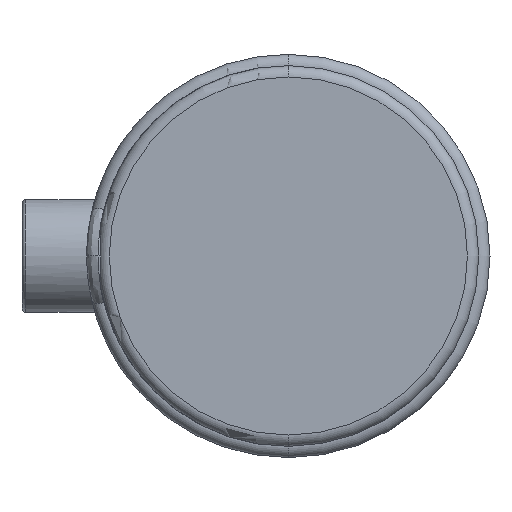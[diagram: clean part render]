
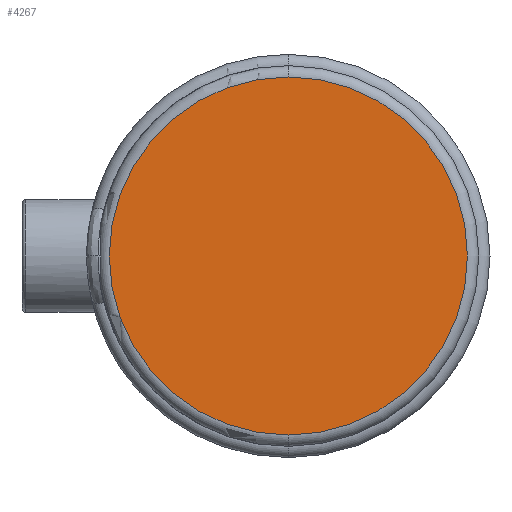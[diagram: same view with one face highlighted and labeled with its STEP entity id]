
A CAD part, left-side view. The second image highlights one B-rep face of the part: STEP entity #4267.
In plain terms, the highlighted planar face has unit normal (-1, 0, 0).
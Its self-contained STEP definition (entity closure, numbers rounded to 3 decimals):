
#45 = PLANE ( 'NONE',  #5277 ) ;
#291 = AXIS2_PLACEMENT_3D ( 'NONE', #5041, #2251, #5509 ) ;
#506 = DIRECTION ( 'NONE',  ( 0., 0., 1. ) ) ;
#597 = CIRCLE ( 'NONE', #2716, 47.6 ) ;
#692 = VERTEX_POINT ( 'NONE', #3502 ) ;
#790 = DIRECTION ( 'NONE',  ( -1., 0., 0. ) ) ;
#1278 = ORIENTED_EDGE ( 'NONE', *, *, #3951, .T. ) ;
#1596 = EDGE_LOOP ( 'NONE', ( #3744, #1278 ) ) ;
#1791 = CARTESIAN_POINT ( 'NONE',  ( 0., 0., -47.6 ) ) ;
#1891 = CARTESIAN_POINT ( 'NONE',  ( 0., 0., 0. ) ) ;
#1927 = EDGE_CURVE ( 'NONE', #692, #2604, #597, .T. ) ;
#2251 = DIRECTION ( 'NONE',  ( -1., 0., 0. ) ) ;
#2604 = VERTEX_POINT ( 'NONE', #1791 ) ;
#2716 = AXIS2_PLACEMENT_3D ( 'NONE', #3578, #790, #4044 ) ;
#3293 = DIRECTION ( 'NONE',  ( -1., 0., 0. ) ) ;
#3502 = CARTESIAN_POINT ( 'NONE',  ( 0., 0., 47.6 ) ) ;
#3578 = CARTESIAN_POINT ( 'NONE',  ( 0., 0., 0. ) ) ;
#3744 = ORIENTED_EDGE ( 'NONE', *, *, #1927, .T. ) ;
#3925 = FACE_OUTER_BOUND ( 'NONE', #1596, .T. ) ;
#3951 = EDGE_CURVE ( 'NONE', #2604, #692, #4527, .T. ) ;
#4044 = DIRECTION ( 'NONE',  ( 0., 0., 1. ) ) ;
#4267 = ADVANCED_FACE ( 'NONE', ( #3925 ), #45, .T. ) ;
#4527 = CIRCLE ( 'NONE', #291, 47.6 ) ;
#5041 = CARTESIAN_POINT ( 'NONE',  ( 0., 0., 0. ) ) ;
#5277 = AXIS2_PLACEMENT_3D ( 'NONE', #1891, #3293, #506 ) ;
#5509 = DIRECTION ( 'NONE',  ( 0., 0., 1. ) ) ;
